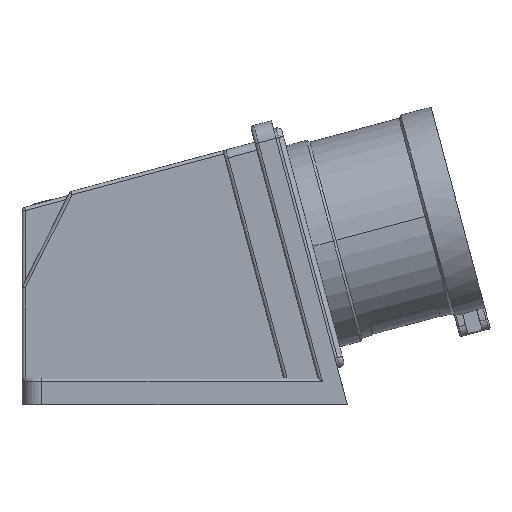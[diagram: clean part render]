
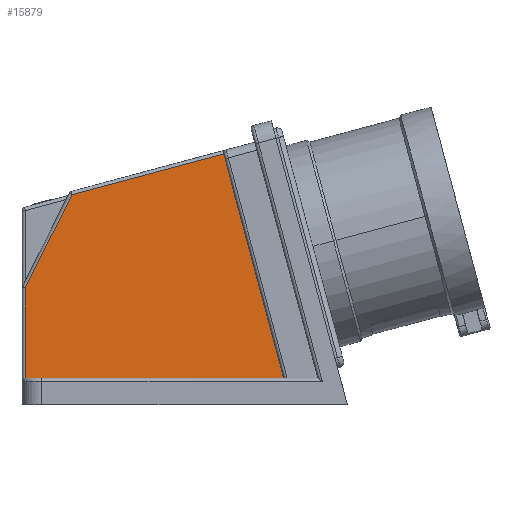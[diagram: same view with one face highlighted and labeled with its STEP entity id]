
A CAD part, left-side view. The second image highlights one B-rep face of the part: STEP entity #15879.
In plain terms, the highlighted planar face has unit normal (-1, 0, 0).
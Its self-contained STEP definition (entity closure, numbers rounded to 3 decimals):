
#2058 = VERTEX_POINT('',#2059);
#2059 = CARTESIAN_POINT('',(-28.5,-30.024,8.));
#2065 = EDGE_CURVE('',#2058,#2066,#2068,.T.);
#2066 = VERTEX_POINT('',#2067);
#2067 = CARTESIAN_POINT('',(-28.5,48.25,8.));
#2068 = LINE('',#2069,#2070);
#2069 = CARTESIAN_POINT('',(-28.5,-30.024,8.));
#2070 = VECTOR('',#2071,1.);
#2071 = DIRECTION('',(0.,1.,0.));
#2257 = EDGE_CURVE('',#2258,#2058,#2260,.T.);
#2258 = VERTEX_POINT('',#2259);
#2259 = CARTESIAN_POINT('',(-28.5,-11.83,75.901));
#2260 = LINE('',#2261,#2262);
#2261 = CARTESIAN_POINT('',(-28.5,-11.83,75.901));
#2262 = VECTOR('',#2263,1.);
#2263 = DIRECTION('',(0.,-0.259,-0.966));
#2758 = VERTEX_POINT('',#2759);
#2759 = CARTESIAN_POINT('',(-28.5,34.069,63.603));
#2781 = EDGE_CURVE('',#2258,#2758,#2782,.T.);
#2782 = LINE('',#2783,#2784);
#2783 = CARTESIAN_POINT('',(-28.5,-11.83,75.901));
#2784 = VECTOR('',#2785,1.);
#2785 = DIRECTION('',(0.,0.966,-0.259));
#15805 = EDGE_CURVE('',#2758,#15806,#15808,.T.);
#15806 = VERTEX_POINT('',#15807);
#15807 = CARTESIAN_POINT('',(-28.5,48.25,35.333));
#15808 = LINE('',#15809,#15810);
#15809 = CARTESIAN_POINT('',(-28.5,34.069,63.603));
#15810 = VECTOR('',#15811,1.);
#15811 = DIRECTION('',(0.,0.448,-0.894));
#15867 = EDGE_CURVE('',#15806,#2066,#15868,.T.);
#15868 = LINE('',#15869,#15870);
#15869 = CARTESIAN_POINT('',(-28.5,48.25,35.333));
#15870 = VECTOR('',#15871,1.);
#15871 = DIRECTION('',(0.,0.,-1.));
#15879 = ADVANCED_FACE('',(#15880),#15887,.F.);
#15880 = FACE_BOUND('',#15881,.T.);
#15881 = EDGE_LOOP('',(#15882,#15883,#15884,#15885,#15886));
#15882 = ORIENTED_EDGE('',*,*,#2065,.F.);
#15883 = ORIENTED_EDGE('',*,*,#2257,.F.);
#15884 = ORIENTED_EDGE('',*,*,#2781,.T.);
#15885 = ORIENTED_EDGE('',*,*,#15805,.T.);
#15886 = ORIENTED_EDGE('',*,*,#15867,.T.);
#15887 = PLANE('',#15888);
#15888 = AXIS2_PLACEMENT_3D('',#15889,#15890,#15891);
#15889 = CARTESIAN_POINT('',(-28.5,0.,0.));
#15890 = DIRECTION('',(1.,0.,0.));
#15891 = DIRECTION('',(0.,-1.,0.));
